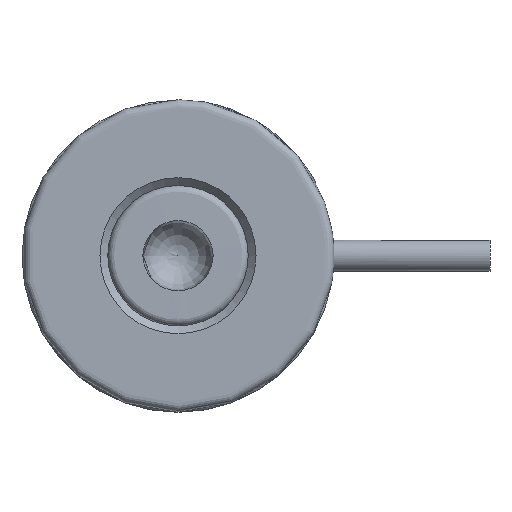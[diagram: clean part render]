
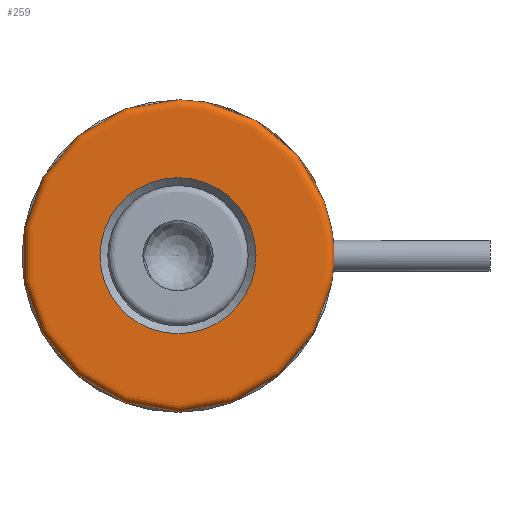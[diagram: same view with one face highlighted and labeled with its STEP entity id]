
A CAD part, top view. The second image highlights one B-rep face of the part: STEP entity #259.
In plain terms, the highlighted face is a revolution surface.
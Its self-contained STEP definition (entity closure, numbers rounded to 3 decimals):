
#259=ADVANCED_FACE('',(#591,#592,#593),#594,.F.);
#591=FACE_BOUND('',#942,.T.);
#592=FACE_OUTER_BOUND('',#943,.T.);
#593=FACE_OUTER_BOUND('',#944,.T.);
#594=SURFACE_OF_REVOLUTION('',#945,#946);
#942=EDGE_LOOP('',(#1684));
#943=EDGE_LOOP('',(#1685));
#944=EDGE_LOOP('',(#1686));
#945=(B_SPLINE_CURVE(3,(#1688,#1689,#1690,#1691,#1692,#1693,#1694,#1695,#1696,#1697,#1698,#1699,#1700,#1701,#1702,#1703),.UNSPECIFIED.,.F.,.F.)B_SPLINE_CURVE_WITH_KNOTS((4,3,3,3,3,4),(0.148,0.286,0.314,0.629,0.656,0.718),.UNSPECIFIED.)RATIONAL_B_SPLINE_CURVE((1.0,1.0,1.0,1.0,0.805,0.805,1.0,1.0,1.0,1.0,0.805,0.805,1.0,1.0,1.0,1.0))BOUNDED_CURVE()REPRESENTATION_ITEM('')GEOMETRIC_REPRESENTATION_ITEM()CURVE());
#946=AXIS1_PLACEMENT('',#1710,#1711);
#1684=ORIENTED_EDGE('',*,*,#1927,.T.);
#1685=ORIENTED_EDGE('',*,*,#1928,.F.);
#1686=ORIENTED_EDGE('',*,*,#1929,.T.);
#1688=CARTESIAN_POINT('',(-10.,0.0,30.));
#1689=CARTESIAN_POINT('',(-13.,0.0,30.));
#1690=CARTESIAN_POINT('',(-16.,0.0,30.));
#1691=CARTESIAN_POINT('',(-19.,0.0,30.));
#1692=CARTESIAN_POINT('',(-19.586,0.,30.));
#1693=CARTESIAN_POINT('',(-20.,0.,29.586));
#1694=CARTESIAN_POINT('',(-20.,0.0,29.));
#1695=CARTESIAN_POINT('',(-20.,0.0,22.167));
#1696=CARTESIAN_POINT('',(-20.,0.0,15.333));
#1697=CARTESIAN_POINT('',(-20.,0.0,8.5));
#1698=CARTESIAN_POINT('',(-20.,0.,7.914));
#1699=CARTESIAN_POINT('',(-19.586,0.,7.5));
#1700=CARTESIAN_POINT('',(-19.,0.0,7.5));
#1701=CARTESIAN_POINT('',(-17.667,0.0,7.5));
#1702=CARTESIAN_POINT('',(-16.333,0.0,7.5));
#1703=CARTESIAN_POINT('',(-15.,0.0,7.5));
#1710=CARTESIAN_POINT('',(0.0,0.0,30.));
#1711=DIRECTION('',(0.0,0.,1.0));
#1927=EDGE_CURVE('',#2164,#2164,#2165,.T.);
#1928=EDGE_CURVE('',#2166,#2166,#2167,.T.);
#1929=EDGE_CURVE('',#2168,#2168,#2169,.T.);
#2164=VERTEX_POINT('',#2473);
#2165=B_SPLINE_CURVE_WITH_KNOTS('',3,(#2474,#2475,#2476,#2477,#2478,#2479,#2480,#2481,#2482,#2483,#2484,#2485,#2486,#2487,#2488,#2489,#2490,#2491,#2492,#2493,#2494,#2495,#2496,#2497,#2498,#2499,#2500,#2501,#2502,#2503,#2504,#2505,#2506,#2507,#2508),.UNSPECIFIED.,.T.,.F.,(2,1,1,1,1,1,1,1,1,1,1,1,1,1,1,1,1,1,1,1,1,1,1,1,1,1,1,1,1,1,1,1,1,1,1,1,2),(-0.063,-0.032,0.0,0.032,0.063,0.095,0.126,0.157,0.188,0.219,0.25,0.281,0.312,0.343,0.374,0.405,0.437,0.468,0.5,0.532,0.563,0.595,0.626,0.657,0.688,0.719,0.75,0.781,0.812,0.843,0.874,0.905,0.937,0.968,1.0,1.032,1.063),.UNSPECIFIED.);
#2166=VERTEX_POINT('',#2509);
#2167=CIRCLE('',#2510,15.);
#2168=VERTEX_POINT('',#2511);
#2169=CIRCLE('',#2512,10.);
#2473=CARTESIAN_POINT('',(20.,0.,19.7));
#2474=CARTESIAN_POINT('',(19.992,0.704,19.745));
#2475=CARTESIAN_POINT('',(20.004,-0.001,19.677));
#2476=CARTESIAN_POINT('',(19.992,-0.706,19.745));
#2477=CARTESIAN_POINT('',(19.956,-1.384,19.946));
#2478=CARTESIAN_POINT('',(19.902,-2.008,20.272));
#2479=CARTESIAN_POINT('',(19.838,-2.554,20.709));
#2480=CARTESIAN_POINT('',(19.775,-3.003,21.241));
#2481=CARTESIAN_POINT('',(19.72,-3.337,21.849));
#2482=CARTESIAN_POINT('',(19.684,-3.543,22.511));
#2483=CARTESIAN_POINT('',(19.671,-3.613,23.2));
#2484=CARTESIAN_POINT('',(19.684,-3.543,23.889));
#2485=CARTESIAN_POINT('',(19.72,-3.337,24.551));
#2486=CARTESIAN_POINT('',(19.775,-3.002,25.159));
#2487=CARTESIAN_POINT('',(19.838,-2.553,25.692));
#2488=CARTESIAN_POINT('',(19.902,-2.008,26.129));
#2489=CARTESIAN_POINT('',(19.956,-1.383,26.454));
#2490=CARTESIAN_POINT('',(19.992,-0.704,26.655));
#2491=CARTESIAN_POINT('',(20.004,0.003,26.723));
#2492=CARTESIAN_POINT('',(19.991,0.709,26.654));
#2493=CARTESIAN_POINT('',(19.955,1.386,26.453));
#2494=CARTESIAN_POINT('',(19.902,2.01,26.127));
#2495=CARTESIAN_POINT('',(19.838,2.556,25.69));
#2496=CARTESIAN_POINT('',(19.774,3.004,25.157));
#2497=CARTESIAN_POINT('',(19.72,3.338,24.549));
#2498=CARTESIAN_POINT('',(19.684,3.544,23.887));
#2499=CARTESIAN_POINT('',(19.671,3.613,23.198));
#2500=CARTESIAN_POINT('',(19.684,3.543,22.509));
#2501=CARTESIAN_POINT('',(19.72,3.336,21.847));
#2502=CARTESIAN_POINT('',(19.775,3.001,21.239));
#2503=CARTESIAN_POINT('',(19.839,2.552,20.707));
#2504=CARTESIAN_POINT('',(19.902,2.006,20.27));
#2505=CARTESIAN_POINT('',(19.956,1.382,19.945));
#2506=CARTESIAN_POINT('',(19.992,0.704,19.745));
#2507=CARTESIAN_POINT('',(20.004,-0.001,19.677));
#2508=CARTESIAN_POINT('',(19.992,-0.706,19.745));
#2509=CARTESIAN_POINT('',(0.0,15.,7.5));
#2510=AXIS2_PLACEMENT_3D('',#2861,#2862,#2863);
#2511=CARTESIAN_POINT('',(0.0,10.,30.));
#2512=AXIS2_PLACEMENT_3D('',#2864,#2865,#2866);
#2861=CARTESIAN_POINT('',(0.0,0.0,7.5));
#2862=DIRECTION('',(-0.0,0.,-1.0));
#2863=DIRECTION('',(0.0,1.0,0.));
#2864=CARTESIAN_POINT('',(0.0,0.0,30.));
#2865=DIRECTION('',(-0.0,0.,-1.0));
#2866=DIRECTION('',(0.0,1.0,0.));
